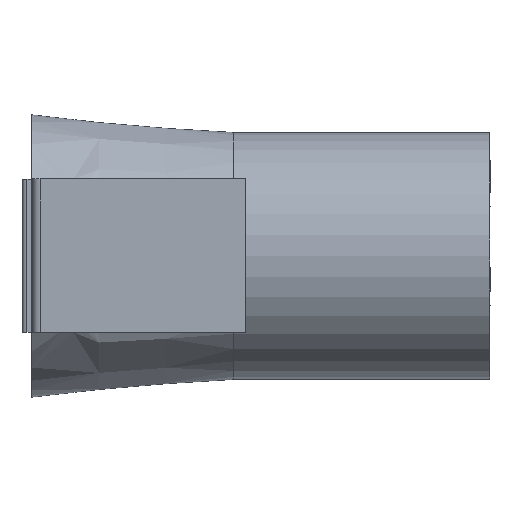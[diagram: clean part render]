
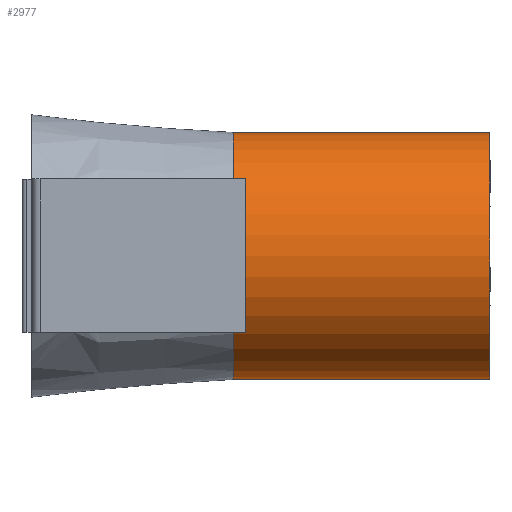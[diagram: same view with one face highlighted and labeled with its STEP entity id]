
A CAD part, top view. The second image highlights one B-rep face of the part: STEP entity #2977.
In plain terms, the highlighted cylindrical face has radius 7.5 mm (diameter 15 mm), a partial arc.
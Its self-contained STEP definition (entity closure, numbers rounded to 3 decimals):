
#174=CIRCLE('',#3166,7.5);
#182=CIRCLE('',#3175,7.5);
#241=CYLINDRICAL_SURFACE('',#3174,7.5);
#277=FACE_OUTER_BOUND('',#444,.T.);
#444=EDGE_LOOP('',(#2042,#2043,#2044,#2045));
#639=LINE('',#4118,#943);
#660=LINE('',#4203,#964);
#943=VECTOR('',#3383,10.);
#964=VECTOR('',#3436,10.);
#1250=VERTEX_POINT('',#4100);
#1257=VERTEX_POINT('',#4116);
#1278=VERTEX_POINT('',#4165);
#1290=VERTEX_POINT('',#4201);
#1555=EDGE_CURVE('',#1250,#1257,#639,.T.);
#1578=EDGE_CURVE('',#1250,#1278,#174,.T.);
#1591=EDGE_CURVE('',#1257,#1290,#182,.T.);
#1592=EDGE_CURVE('',#1290,#1278,#660,.T.);
#2042=ORIENTED_EDGE('',*,*,#1555,.T.);
#2043=ORIENTED_EDGE('',*,*,#1591,.T.);
#2044=ORIENTED_EDGE('',*,*,#1592,.T.);
#2045=ORIENTED_EDGE('',*,*,#1578,.F.);
#2977=ADVANCED_FACE('',(#277),#241,.T.);
#3166=AXIS2_PLACEMENT_3D('',#4166,#3416,#3417);
#3174=AXIS2_PLACEMENT_3D('',#4200,#3432,#3433);
#3175=AXIS2_PLACEMENT_3D('',#4202,#3434,#3435);
#3383=DIRECTION('',(1.,0.,0.));
#3416=DIRECTION('center_axis',(-1.,0.,0.));
#3417=DIRECTION('ref_axis',(0.,-1.,0.));
#3432=DIRECTION('center_axis',(-1.,0.,0.));
#3433=DIRECTION('ref_axis',(0.,-1.,0.));
#3434=DIRECTION('center_axis',(-1.,0.,0.));
#3435=DIRECTION('ref_axis',(0.,0.,1.));
#3436=DIRECTION('',(-1.,0.,0.));
#4100=CARTESIAN_POINT('',(11.43,-3.005,-6.872));
#4116=CARTESIAN_POINT('',(27.,-3.005,-6.872));
#4118=CARTESIAN_POINT('',(19.215,-3.005,-6.872));
#4165=CARTESIAN_POINT('',(11.43,3.005,-6.872));
#4166=CARTESIAN_POINT('Origin',(11.43,0.,
0.));
#4200=CARTESIAN_POINT('Origin',(19.215,0.,
0.));
#4201=CARTESIAN_POINT('',(27.,3.005,-6.872));
#4202=CARTESIAN_POINT('Origin',(27.,0.,0.));
#4203=CARTESIAN_POINT('',(19.215,3.005,-6.872));
